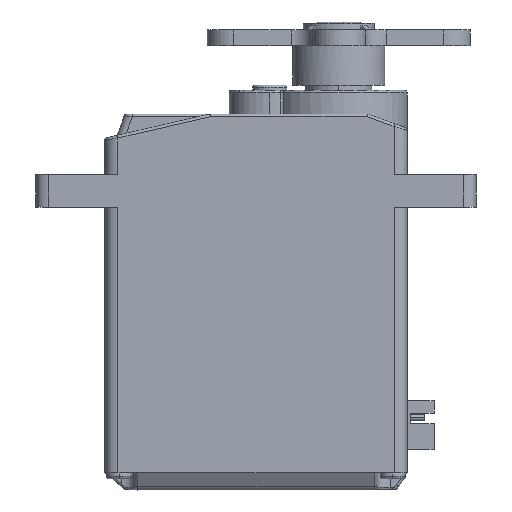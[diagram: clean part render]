
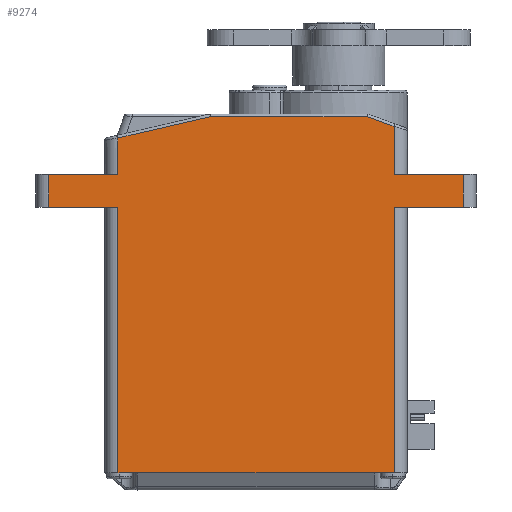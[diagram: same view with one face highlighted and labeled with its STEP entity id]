
A CAD part, left-side view. The second image highlights one B-rep face of the part: STEP entity #9274.
In plain terms, the highlighted planar face has unit normal (-1, 0, 0).
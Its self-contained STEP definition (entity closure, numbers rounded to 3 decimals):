
#12 = DIRECTION ( 'NONE',  ( 0., 0.974, -0.225 ) ) ;
#60 = VERTEX_POINT ( 'NONE', #6719 ) ;
#83 = LINE ( 'NONE', #9207, #1141 ) ;
#202 = DIRECTION ( 'NONE',  ( 0., -1., 0. ) ) ;
#627 = DIRECTION ( 'NONE',  ( 0., 0., 1. ) ) ;
#764 = ORIENTED_EDGE ( 'NONE', *, *, #6258, .T. ) ;
#1141 = VECTOR ( 'NONE', #12, 1000. ) ;
#1157 = EDGE_CURVE ( 'NONE', #5619, #7882, #9597, .T. ) ;
#1354 = VERTEX_POINT ( 'NONE', #1954 ) ;
#1432 = VECTOR ( 'NONE', #5460, 1000. ) ;
#1489 = CARTESIAN_POINT ( 'NONE',  ( -5.9, -10.5, 27.659 ) ) ;
#1671 = LINE ( 'NONE', #6962, #4329 ) ;
#1797 = DIRECTION ( 'NONE',  ( 0., -1., 0. ) ) ;
#1822 = EDGE_CURVE ( 'NONE', #6608, #60, #4210, .T. ) ;
#1927 = DIRECTION ( 'NONE',  ( 0., 0., -1. ) ) ;
#1954 = CARTESIAN_POINT ( 'NONE',  ( -5.9, -10.5, 21.5 ) ) ;
#2066 = LINE ( 'NONE', #5953, #7191 ) ;
#2087 = CARTESIAN_POINT ( 'NONE',  ( -5.9, 10.5, 1.3 ) ) ;
#2163 = DIRECTION ( 'NONE',  ( 0., 0., -1. ) ) ;
#2231 = VERTEX_POINT ( 'NONE', #4168 ) ;
#2263 = VERTEX_POINT ( 'NONE', #12795 ) ;
#2449 = LINE ( 'NONE', #4596, #3121 ) ;
#2626 = VECTOR ( 'NONE', #2163, 1000. ) ;
#2761 = DIRECTION ( 'NONE',  ( 0., -1., 0. ) ) ;
#2809 = EDGE_CURVE ( 'NONE', #6950, #12754, #10570, .T. ) ;
#2844 = ORIENTED_EDGE ( 'NONE', *, *, #7736, .F. ) ;
#2898 = VECTOR ( 'NONE', #627, 1000. ) ;
#3121 = VECTOR ( 'NONE', #12768, 1000. ) ;
#3168 = CARTESIAN_POINT ( 'NONE',  ( -5.9, -15.75, 24. ) ) ;
#3233 = CARTESIAN_POINT ( 'NONE',  ( -5.9, -9., 1.3 ) ) ;
#3285 = DIRECTION ( 'NONE',  ( 0., 0., 1. ) ) ;
#3302 = PLANE ( 'NONE',  #5499 ) ;
#3653 = LINE ( 'NONE', #7739, #2898 ) ;
#3713 = CARTESIAN_POINT ( 'NONE',  ( -5.9, -10.5, 24. ) ) ;
#3851 = ORIENTED_EDGE ( 'NONE', *, *, #5155, .F. ) ;
#3914 = CARTESIAN_POINT ( 'NONE',  ( -5.9, 15.75, 24. ) ) ;
#3920 = ORIENTED_EDGE ( 'NONE', *, *, #11871, .T. ) ;
#4012 = ORIENTED_EDGE ( 'NONE', *, *, #8367, .T. ) ;
#4168 = CARTESIAN_POINT ( 'NONE',  ( -5.9, -10.5, 1.3 ) ) ;
#4210 = LINE ( 'NONE', #8292, #7356 ) ;
#4296 = LINE ( 'NONE', #2087, #5052 ) ;
#4329 = VECTOR ( 'NONE', #1927, 1000. ) ;
#4596 = CARTESIAN_POINT ( 'NONE',  ( -5.9, -10.5, 21.5 ) ) ;
#4843 = LINE ( 'NONE', #11748, #5047 ) ;
#4885 = ORIENTED_EDGE ( 'NONE', *, *, #1157, .T. ) ;
#5047 = VECTOR ( 'NONE', #5851, 1000. ) ;
#5052 = VECTOR ( 'NONE', #8377, 1000. ) ;
#5155 = EDGE_CURVE ( 'NONE', #8230, #12128, #6388, .T. ) ;
#5297 = VECTOR ( 'NONE', #202, 1000. ) ;
#5460 = DIRECTION ( 'NONE',  ( 0., -1., 0. ) ) ;
#5464 = DIRECTION ( 'NONE',  ( 0., 1., 0. ) ) ;
#5499 = AXIS2_PLACEMENT_3D ( 'NONE', #12278, #7271, #10331 ) ;
#5535 = CARTESIAN_POINT ( 'NONE',  ( -5.9, 10.5, 24. ) ) ;
#5574 = EDGE_CURVE ( 'NONE', #2263, #9855, #1671, .T. ) ;
#5584 = DIRECTION ( 'NONE',  ( 0., 0.94, 0.342 ) ) ;
#5619 = VERTEX_POINT ( 'NONE', #7959 ) ;
#5649 = ORIENTED_EDGE ( 'NONE', *, *, #9276, .T. ) ;
#5851 = DIRECTION ( 'NONE',  ( 0., 0., -1. ) ) ;
#5873 = CARTESIAN_POINT ( 'NONE',  ( -5.9, 10.5, 21.5 ) ) ;
#5953 = CARTESIAN_POINT ( 'NONE',  ( -5.9, 15.75, 21.5 ) ) ;
#6071 = ORIENTED_EDGE ( 'NONE', *, *, #2809, .F. ) ;
#6238 = CARTESIAN_POINT ( 'NONE',  ( -5.9, 15.75, 21.5 ) ) ;
#6258 = EDGE_CURVE ( 'NONE', #6950, #60, #4296, .T. ) ;
#6319 = EDGE_CURVE ( 'NONE', #12311, #7882, #7317, .T. ) ;
#6388 = LINE ( 'NONE', #3168, #2626 ) ;
#6453 = CARTESIAN_POINT ( 'NONE',  ( -5.9, 3.477, 28.4 ) ) ;
#6591 = LINE ( 'NONE', #6453, #1432 ) ;
#6608 = VERTEX_POINT ( 'NONE', #11106 ) ;
#6719 = CARTESIAN_POINT ( 'NONE',  ( -5.9, 9., 1.3 ) ) ;
#6745 = CARTESIAN_POINT ( 'NONE',  ( -5.9, 3.477, 28.4 ) ) ;
#6834 = ORIENTED_EDGE ( 'NONE', *, *, #9925, .F. ) ;
#6950 = VERTEX_POINT ( 'NONE', #7561 ) ;
#6962 = CARTESIAN_POINT ( 'NONE',  ( -5.9, -10.5, 27.659 ) ) ;
#6999 = VECTOR ( 'NONE', #3285, 1000. ) ;
#7191 = VECTOR ( 'NONE', #1797, 1000. ) ;
#7271 = DIRECTION ( 'NONE',  ( -1., 0., 0. ) ) ;
#7317 = LINE ( 'NONE', #6238, #6999 ) ;
#7356 = VECTOR ( 'NONE', #11298, 1000. ) ;
#7561 = CARTESIAN_POINT ( 'NONE',  ( -5.9, 10.5, 1.3 ) ) ;
#7721 = EDGE_CURVE ( 'NONE', #1354, #12128, #2449, .T. ) ;
#7736 = EDGE_CURVE ( 'NONE', #5619, #8745, #3653, .T. ) ;
#7739 = CARTESIAN_POINT ( 'NONE',  ( -5.9, 10.5, 24. ) ) ;
#7882 = VERTEX_POINT ( 'NONE', #3914 ) ;
#7901 = CARTESIAN_POINT ( 'NONE',  ( -5.9, 15.75, 21.5 ) ) ;
#7959 = CARTESIAN_POINT ( 'NONE',  ( -5.9, 10.5, 24. ) ) ;
#8073 = VECTOR ( 'NONE', #5464, 1000. ) ;
#8230 = VERTEX_POINT ( 'NONE', #12056 ) ;
#8292 = CARTESIAN_POINT ( 'NONE',  ( -5.9, -9., 1.3 ) ) ;
#8334 = VERTEX_POINT ( 'NONE', #11720 ) ;
#8367 = EDGE_CURVE ( 'NONE', #12311, #12754, #2066, .T. ) ;
#8377 = DIRECTION ( 'NONE',  ( 0., -1., 0. ) ) ;
#8395 = LINE ( 'NONE', #3233, #5297 ) ;
#8680 = VECTOR ( 'NONE', #2761, 1000. ) ;
#8696 = CARTESIAN_POINT ( 'NONE',  ( -5.9, 10.5, 18.2 ) ) ;
#8745 = VERTEX_POINT ( 'NONE', #11220 ) ;
#8801 = ORIENTED_EDGE ( 'NONE', *, *, #1822, .F. ) ;
#9109 = EDGE_CURVE ( 'NONE', #9855, #8230, #13143, .T. ) ;
#9207 = CARTESIAN_POINT ( 'NONE',  ( -5.9, 3.477, 28.4 ) ) ;
#9274 = ADVANCED_FACE ( 'NONE', ( #12348 ), #3302, .T. ) ;
#9276 = EDGE_CURVE ( 'NONE', #6608, #2231, #8395, .T. ) ;
#9302 = ORIENTED_EDGE ( 'NONE', *, *, #9417, .F. ) ;
#9417 = EDGE_CURVE ( 'NONE', #11661, #8334, #6591, .T. ) ;
#9420 = EDGE_CURVE ( 'NONE', #2263, #8334, #9525, .T. ) ;
#9441 = CARTESIAN_POINT ( 'NONE',  ( -5.9, -15.75, 21.5 ) ) ;
#9525 = LINE ( 'NONE', #1489, #12340 ) ;
#9528 = VECTOR ( 'NONE', #12781, 1000. ) ;
#9597 = LINE ( 'NONE', #5535, #8073 ) ;
#9855 = VERTEX_POINT ( 'NONE', #10695 ) ;
#9925 = EDGE_CURVE ( 'NONE', #1354, #2231, #4843, .T. ) ;
#10331 = DIRECTION ( 'NONE',  ( 0., 0., 1. ) ) ;
#10570 = LINE ( 'NONE', #8696, #9528 ) ;
#10695 = CARTESIAN_POINT ( 'NONE',  ( -5.9, -10.5, 24. ) ) ;
#10807 = ORIENTED_EDGE ( 'NONE', *, *, #9109, .F. ) ;
#10811 = EDGE_LOOP ( 'NONE', ( #5649, #6834, #10906, #3851, #10807, #11340, #11075, #9302, #3920, #2844, #4885, #10887, #4012, #6071, #764, #8801 ) ) ;
#10887 = ORIENTED_EDGE ( 'NONE', *, *, #6319, .F. ) ;
#10906 = ORIENTED_EDGE ( 'NONE', *, *, #7721, .T. ) ;
#11075 = ORIENTED_EDGE ( 'NONE', *, *, #9420, .T. ) ;
#11106 = CARTESIAN_POINT ( 'NONE',  ( -5.9, -9., 1.3 ) ) ;
#11220 = CARTESIAN_POINT ( 'NONE',  ( -5.9, 10.5, 26.779 ) ) ;
#11298 = DIRECTION ( 'NONE',  ( 0., 1., 0. ) ) ;
#11340 = ORIENTED_EDGE ( 'NONE', *, *, #5574, .F. ) ;
#11661 = VERTEX_POINT ( 'NONE', #6745 ) ;
#11720 = CARTESIAN_POINT ( 'NONE',  ( -5.9, -8.465, 28.4 ) ) ;
#11748 = CARTESIAN_POINT ( 'NONE',  ( -5.9, -10.5, 21.5 ) ) ;
#11871 = EDGE_CURVE ( 'NONE', #11661, #8745, #83, .T. ) ;
#12056 = CARTESIAN_POINT ( 'NONE',  ( -5.9, -15.75, 24. ) ) ;
#12128 = VERTEX_POINT ( 'NONE', #9441 ) ;
#12278 = CARTESIAN_POINT ( 'NONE',  ( -5.9, -9.3, 19.7 ) ) ;
#12311 = VERTEX_POINT ( 'NONE', #7901 ) ;
#12340 = VECTOR ( 'NONE', #5584, 1000. ) ;
#12348 = FACE_OUTER_BOUND ( 'NONE', #10811, .T. ) ;
#12754 = VERTEX_POINT ( 'NONE', #5873 ) ;
#12768 = DIRECTION ( 'NONE',  ( 0., -1., 0. ) ) ;
#12781 = DIRECTION ( 'NONE',  ( 0., 0., 1. ) ) ;
#12795 = CARTESIAN_POINT ( 'NONE',  ( -5.9, -10.5, 27.659 ) ) ;
#13143 = LINE ( 'NONE', #3713, #8680 ) ;
